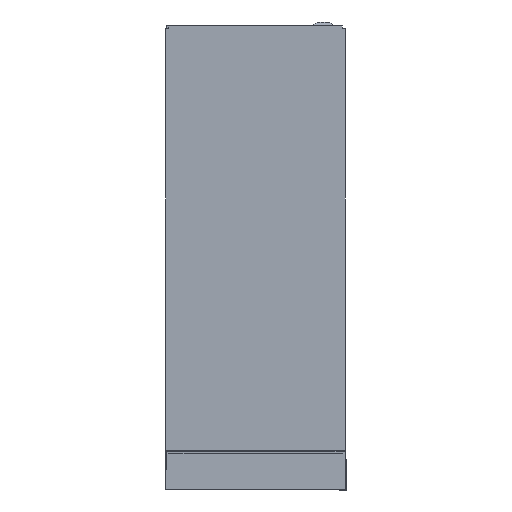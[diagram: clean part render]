
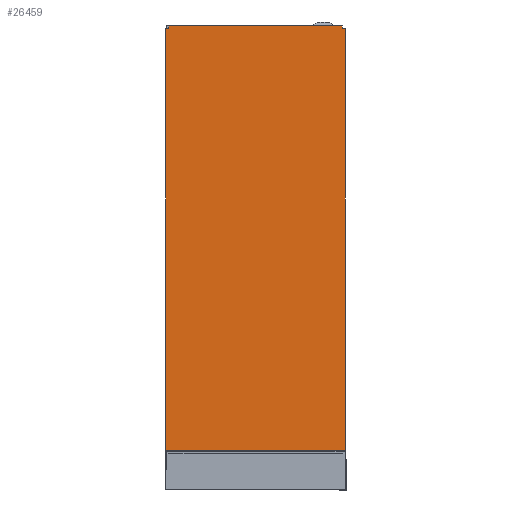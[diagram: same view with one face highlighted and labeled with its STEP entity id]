
A CAD part, left-side view. The second image highlights one B-rep face of the part: STEP entity #26459.
In plain terms, the highlighted planar face has unit normal (-1, 0, 0).
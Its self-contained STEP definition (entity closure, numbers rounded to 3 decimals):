
#26173=CARTESIAN_POINT('',(4.507,-787.007,176.06));
#26174=VERTEX_POINT('',#26173);
#26181=CARTESIAN_POINT('',(4.507,-787.007,163.06));
#26182=VERTEX_POINT('',#26181);
#26183=CARTESIAN_POINT('',(4.507,-787.007,163.06));
#26184=DIRECTION('',(0.0,0.0,1.0));
#26185=VECTOR('',#26184,13.);
#26186=LINE('',#26183,#26185);
#26187=EDGE_CURVE('',#26182,#26174,#26186,.T.);
#26203=CARTESIAN_POINT('',(4.507,-801.007,176.06));
#26204=VERTEX_POINT('',#26203);
#26221=CARTESIAN_POINT('',(4.507,-801.007,2050.06));
#26222=VERTEX_POINT('',#26221);
#26229=CARTESIAN_POINT('',(4.507,-801.007,2050.06));
#26230=DIRECTION('',(0.0,0.0,-1.0));
#26231=VECTOR('',#26230,1874.);
#26232=LINE('',#26229,#26231);
#26233=EDGE_CURVE('',#26222,#26204,#26232,.T.);
#26251=CARTESIAN_POINT('',(4.507,-801.007,176.06));
#26252=DIRECTION('',(0.0,1.0,0.0));
#26253=VECTOR('',#26252,14.0);
#26254=LINE('',#26251,#26253);
#26255=EDGE_CURVE('',#26204,#26174,#26254,.T.);
#26305=CARTESIAN_POINT('',(4.507,-17.007,163.06));
#26306=VERTEX_POINT('',#26305);
#26307=CARTESIAN_POINT('',(4.507,-17.007,176.06));
#26308=VERTEX_POINT('',#26307);
#26309=CARTESIAN_POINT('',(4.507,-17.007,163.06));
#26310=DIRECTION('',(0.0,0.0,1.0));
#26311=VECTOR('',#26310,13.);
#26312=LINE('',#26309,#26311);
#26313=EDGE_CURVE('',#26306,#26308,#26312,.T.);
#26345=CARTESIAN_POINT('',(4.507,-3.007,176.06));
#26346=VERTEX_POINT('',#26345);
#26347=CARTESIAN_POINT('',(4.507,-3.007,2050.06));
#26348=VERTEX_POINT('',#26347);
#26349=CARTESIAN_POINT('',(4.507,-3.007,176.06));
#26350=DIRECTION('',(0.0,0.0,1.0));
#26351=VECTOR('',#26350,1874.);
#26352=LINE('',#26349,#26351);
#26353=EDGE_CURVE('',#26346,#26348,#26352,.T.);
#26386=CARTESIAN_POINT('',(4.507,-3.007,176.06));
#26387=DIRECTION('',(0.0,-1.0,0.0));
#26388=VECTOR('',#26387,14.);
#26389=LINE('',#26386,#26388);
#26390=EDGE_CURVE('',#26346,#26308,#26389,.T.);
#26402=CARTESIAN_POINT('',(4.507,-1907.625,161.06));
#26403=DIRECTION('',(-1.0,0.0,0.0));
#26404=DIRECTION('',(0.0,-1.0,0.0));
#26405=AXIS2_PLACEMENT_3D('',#26402,#26403,#26404);
#26406=PLANE('',#26405);
#26407=CARTESIAN_POINT('',(4.507,-17.007,163.06));
#26408=DIRECTION('',(0.0,-1.0,0.0));
#26409=VECTOR('',#26408,770.);
#26410=LINE('',#26407,#26409);
#26411=EDGE_CURVE('',#26306,#26182,#26410,.T.);
#26412=ORIENTED_EDGE('',*,*,#26411,.T.);
#26413=ORIENTED_EDGE('',*,*,#26187,.T.);
#26414=ORIENTED_EDGE('',*,*,#26255,.F.);
#26415=ORIENTED_EDGE('',*,*,#26233,.F.);
#26416=CARTESIAN_POINT('',(4.507,-787.007,2050.06));
#26417=VERTEX_POINT('',#26416);
#26418=CARTESIAN_POINT('',(4.507,-801.007,2050.06));
#26419=DIRECTION('',(0.0,1.0,0.0));
#26420=VECTOR('',#26419,14.0);
#26421=LINE('',#26418,#26420);
#26422=EDGE_CURVE('',#26222,#26417,#26421,.T.);
#26423=ORIENTED_EDGE('',*,*,#26422,.T.);
#26424=CARTESIAN_POINT('',(4.507,-787.007,2063.06));
#26425=VERTEX_POINT('',#26424);
#26426=CARTESIAN_POINT('',(4.507,-787.007,2063.06));
#26427=DIRECTION('',(0.0,0.0,-1.0));
#26428=VECTOR('',#26427,13.0);
#26429=LINE('',#26426,#26428);
#26430=EDGE_CURVE('',#26425,#26417,#26429,.T.);
#26431=ORIENTED_EDGE('',*,*,#26430,.F.);
#26432=CARTESIAN_POINT('',(4.507,-17.007,2063.06));
#26433=VERTEX_POINT('',#26432);
#26434=CARTESIAN_POINT('',(4.507,-17.007,2063.06));
#26435=DIRECTION('',(0.0,-1.0,0.0));
#26436=VECTOR('',#26435,770.);
#26437=LINE('',#26434,#26436);
#26438=EDGE_CURVE('',#26433,#26425,#26437,.T.);
#26439=ORIENTED_EDGE('',*,*,#26438,.F.);
#26440=CARTESIAN_POINT('',(4.507,-17.007,2050.06));
#26441=VERTEX_POINT('',#26440);
#26442=CARTESIAN_POINT('',(4.507,-17.007,2063.06));
#26443=DIRECTION('',(0.0,0.0,-1.0));
#26444=VECTOR('',#26443,13.0);
#26445=LINE('',#26442,#26444);
#26446=EDGE_CURVE('',#26433,#26441,#26445,.T.);
#26447=ORIENTED_EDGE('',*,*,#26446,.T.);
#26448=CARTESIAN_POINT('',(4.507,-3.007,2050.06));
#26449=DIRECTION('',(0.0,-1.0,0.0));
#26450=VECTOR('',#26449,14.0);
#26451=LINE('',#26448,#26450);
#26452=EDGE_CURVE('',#26348,#26441,#26451,.T.);
#26453=ORIENTED_EDGE('',*,*,#26452,.F.);
#26454=ORIENTED_EDGE('',*,*,#26353,.F.);
#26455=ORIENTED_EDGE('',*,*,#26390,.T.);
#26456=ORIENTED_EDGE('',*,*,#26313,.F.);
#26457=EDGE_LOOP('',(#26412,#26413,#26414,#26415,#26423,#26431,#26439,#26447,#26453,#26454,#26455,#26456));
#26458=FACE_OUTER_BOUND('',#26457,.T.);
#26459=ADVANCED_FACE('',(#26458),#26406,.T.);
